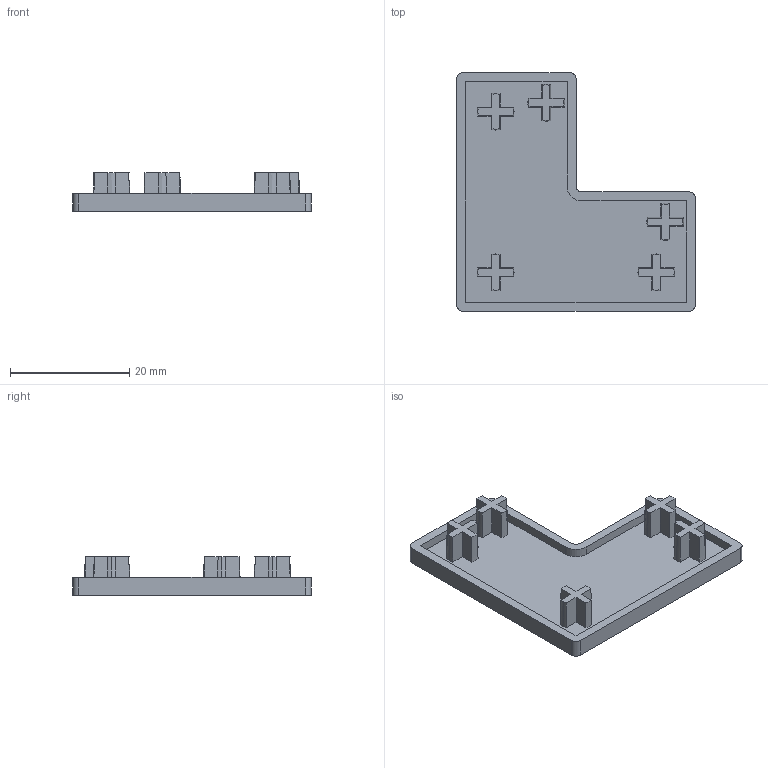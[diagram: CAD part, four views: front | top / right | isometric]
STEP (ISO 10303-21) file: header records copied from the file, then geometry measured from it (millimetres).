
FILE_DESCRIPTION (( 'STEP AP203' ), '1' );
FILE_NAME ('EC4420-4.STEP', '2024-02-17T06:15:27', ( '' ), ( '' ), 'SwSTEP 2.0', 'SolidWorks 2022', '' );
FILE_SCHEMA (( 'CONFIG_CONTROL_DESIGN' ));
Length unit declared in the file: millimetre
Products named in the file (1): EC4420-4
Bounding box: 40 x 40 x 6.5 mm (x, y, z)
Volume: 2506.6 mm3; surface area: 3666.3 mm2
Topology: 1 solids, 1 shells, 92 faces, 252 edges, 168 vertices
Faces by surface type: plane 60, cone 25, cylinder 7
Entity records: 3037 total; most frequent: CARTESIAN_POINT 633, ORIENTED_EDGE 504, DIRECTION 462, EDGE_CURVE 252, VERTEX_POINT 168, AXIS2_PLACEMENT_3D 157, LINE 148, VECTOR 148
